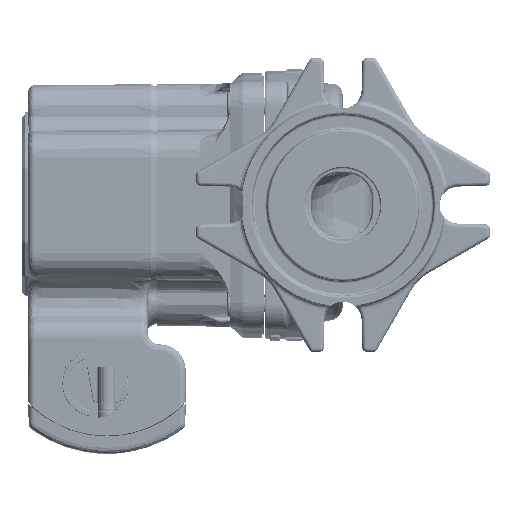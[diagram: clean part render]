
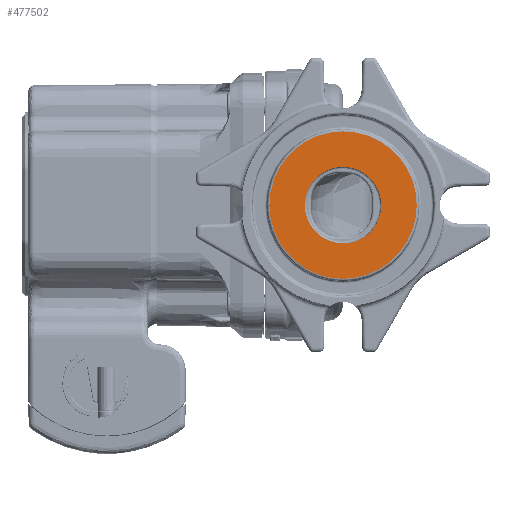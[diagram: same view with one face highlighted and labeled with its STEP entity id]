
A CAD part, left-side view. The second image highlights one B-rep face of the part: STEP entity #477502.
In plain terms, the highlighted planar face has unit normal (-1, 0, 0).
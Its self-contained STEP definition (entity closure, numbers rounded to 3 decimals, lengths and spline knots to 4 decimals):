
#10910 = CARTESIAN_POINT ( 'NONE',  ( -3.165, -1.8133, 0. ) ) ;
#29015 = VERTEX_POINT ( 'NONE', #500268 ) ;
#31165 = EDGE_CURVE ( 'NONE', #490420, #29015, #42304, .T. ) ;
#42304 = CIRCLE ( 'NONE', #633928, 0.9525 ) ;
#77068 = DIRECTION ( 'NONE',  ( 1., 0., 0. ) ) ;
#116240 = DIRECTION ( 'NONE',  ( 0., 0., 1. ) ) ;
#153352 = CARTESIAN_POINT ( 'NONE',  ( -3.165, -1.8133, -0.495 ) ) ;
#154525 = VERTEX_POINT ( 'NONE', #675654 ) ;
#162577 = AXIS2_PLACEMENT_3D ( 'NONE', #10910, #664888, #439702 ) ;
#189638 = FACE_OUTER_BOUND ( 'NONE', #466367, .T. ) ;
#195344 = DIRECTION ( 'NONE',  ( 1., 0., 0. ) ) ;
#215582 = CARTESIAN_POINT ( 'NONE',  ( -3.165, -1.8133, -0.9525 ) ) ;
#240577 = FACE_BOUND ( 'NONE', #660001, .T. ) ;
#293686 = EDGE_CURVE ( 'NONE', #154525, #560962, #464301, .T. ) ;
#309228 = AXIS2_PLACEMENT_3D ( 'NONE', #636399, #77068, #520240 ) ;
#356522 = DIRECTION ( 'NONE',  ( -1., 0., 0. ) ) ;
#379712 = AXIS2_PLACEMENT_3D ( 'NONE', #693027, #195344, #416922 ) ;
#416922 = DIRECTION ( 'NONE',  ( 0., 0., 1. ) ) ;
#418256 = CARTESIAN_POINT ( 'NONE',  ( -3.165, -1.8133, 0. ) ) ;
#439702 = DIRECTION ( 'NONE',  ( 0., 0., 1. ) ) ;
#464301 = CIRCLE ( 'NONE', #162577, 0.495 ) ;
#466367 = EDGE_LOOP ( 'NONE', ( #603409, #653102 ) ) ;
#477502 = ADVANCED_FACE ( 'NONE', ( #189638, #240577 ), #534553, .F. ) ;
#483693 = AXIS2_PLACEMENT_3D ( 'NONE', #552231, #613903, #116240 ) ;
#490420 = VERTEX_POINT ( 'NONE', #215582 ) ;
#500268 = CARTESIAN_POINT ( 'NONE',  ( -3.165, -1.8133, 0.9525 ) ) ;
#507303 = EDGE_CURVE ( 'NONE', #29015, #490420, #634610, .T. ) ;
#520240 = DIRECTION ( 'NONE',  ( 0., 0., 1. ) ) ;
#530634 = CIRCLE ( 'NONE', #379712, 0.495 ) ;
#534553 = PLANE ( 'NONE',  #309228 ) ;
#552231 = CARTESIAN_POINT ( 'NONE',  ( -3.165, -1.8133, 0. ) ) ;
#560962 = VERTEX_POINT ( 'NONE', #153352 ) ;
#578128 = DIRECTION ( 'NONE',  ( 0., 0., 1. ) ) ;
#590189 = ORIENTED_EDGE ( 'NONE', *, *, #712530, .T. ) ;
#603409 = ORIENTED_EDGE ( 'NONE', *, *, #507303, .T. ) ;
#613903 = DIRECTION ( 'NONE',  ( -1., 0., 0. ) ) ;
#633928 = AXIS2_PLACEMENT_3D ( 'NONE', #418256, #356522, #578128 ) ;
#634610 = CIRCLE ( 'NONE', #483693, 0.9525 ) ;
#636399 = CARTESIAN_POINT ( 'NONE',  ( -3.165, -3.3943, 0. ) ) ;
#649296 = ORIENTED_EDGE ( 'NONE', *, *, #293686, .T. ) ;
#653102 = ORIENTED_EDGE ( 'NONE', *, *, #31165, .T. ) ;
#660001 = EDGE_LOOP ( 'NONE', ( #649296, #590189 ) ) ;
#664888 = DIRECTION ( 'NONE',  ( 1., 0., 0. ) ) ;
#675654 = CARTESIAN_POINT ( 'NONE',  ( -3.165, -1.8133, 0.495 ) ) ;
#693027 = CARTESIAN_POINT ( 'NONE',  ( -3.165, -1.8133, 0. ) ) ;
#712530 = EDGE_CURVE ( 'NONE', #560962, #154525, #530634, .T. ) ;
